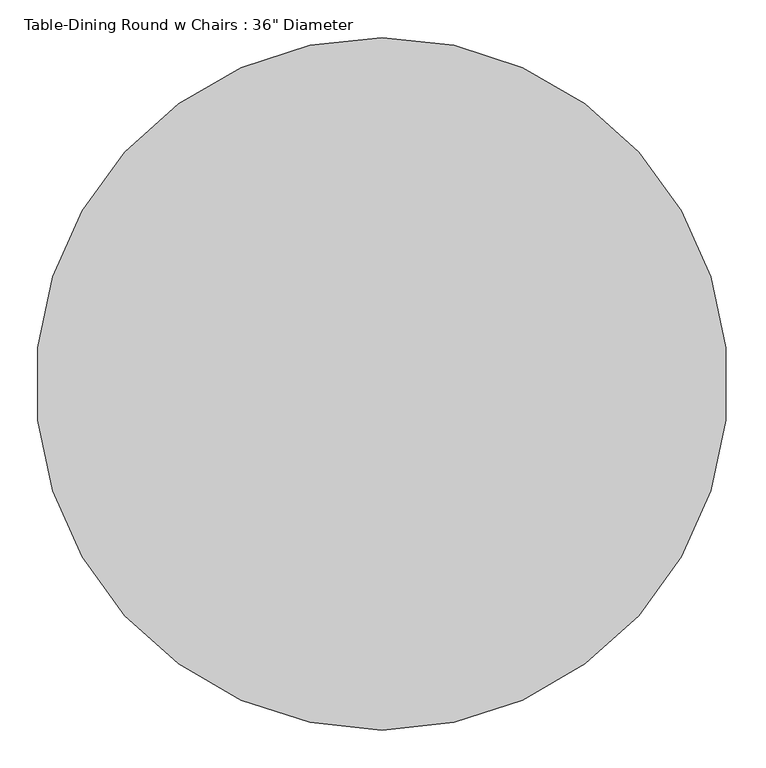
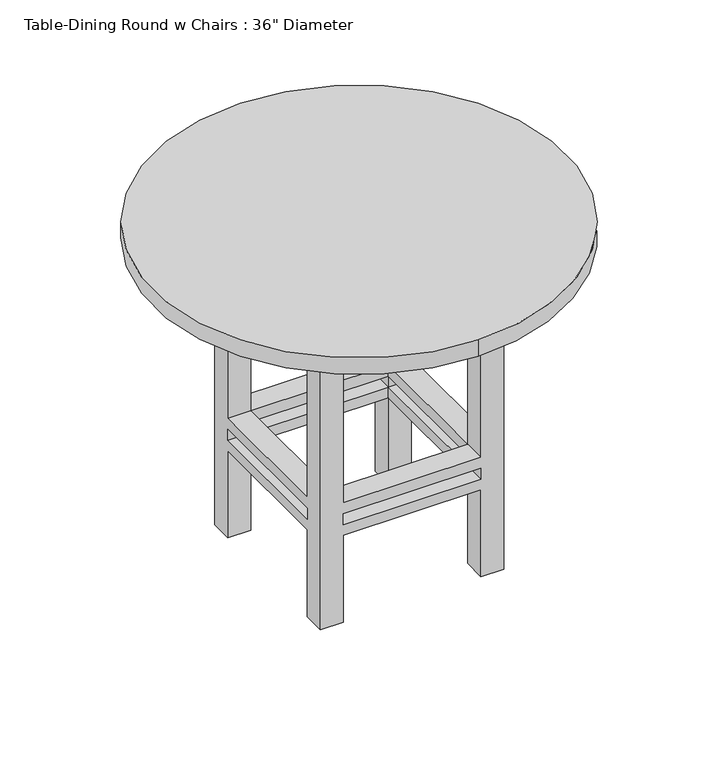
"""IFC4 building model written with IfcOpenShell, lengths in millimetres: furniture geometry."""

import ifcopenshell
import ifcopenshell.guid

model = None  # the IFC model being written
_history = None  # IfcOwnerHistory: only IFC2X3 demands one
_inside = {}  # id of a spatial element -> (the spatial element, [elements in it])
_under = {}  # id of a project, library or spatial element -> (it, [spatial elements below it])
_declared = {}  # id of a project -> (the project, [libraries it declares])
_typed = {}  # id of a type object -> (the type object, [elements of that type])
_made_of = {}  # id of a material, layer set ... -> (it, [elements and type objects made of it])


def new_model(schema):
    """Start an empty IFC model of exactly this schema.

    Asked for "IFC4X3", IfcOpenShell would pick the latest addendum, in which some entities
    have other attributes; the version numbers below select the first issue.
    IFC2X3 requires an IfcOwnerHistory on every rooted entity: one is made here for all.
    """
    global model, _history
    if schema == "IFC4X3":
        model = ifcopenshell.file(schema_version=(4, 3, 0, 0))
    else:
        model = ifcopenshell.file(schema=schema)
    _inside.clear()
    _under.clear()
    _declared.clear()
    _typed.clear()
    _made_of.clear()
    _history = None
    if model.schema == "IFC2X3":
        org = make("IfcOrganization", Name="unknown")
        user = make(
            "IfcPersonAndOrganization",
            ThePerson=make("IfcPerson", FamilyName="unknown"),
            TheOrganization=org,
        )
        app = make(
            "IfcApplication",
            ApplicationDeveloper=org,
            Version="unknown",
            ApplicationFullName="unknown",
            ApplicationIdentifier="unknown",
        )
        _history = make(
            "IfcOwnerHistory",
            OwningUser=user,
            OwningApplication=app,
            ChangeAction="ADDED",
            CreationDate=0,
        )
    return model


def make(cls, **values):
    """One entity of the class cls with the attributes given. An attribute that is None is left unset."""
    return model.create_entity(
        cls, **{name: value for name, value in values.items() if value is not None}
    )


def rooted(cls, **values):
    """An entity with a GlobalId (a new one), such as an element, a storey or a relation."""
    return make(cls, GlobalId=ifcopenshell.guid.new(), OwnerHistory=_history, **values)


def si_unit(unit_type, name, prefix=None):
    """IfcSIUnit, for example si_unit("LENGTHUNIT", "METRE", prefix="MILLI")."""
    return make("IfcSIUnit", UnitType=unit_type, Prefix=prefix, Name=name)


def assignment(units):
    """IfcUnitAssignment: the units of a project."""
    return None if units is None else make("IfcUnitAssignment", Units=units)


def point(xyz):
    """IfcCartesianPoint."""
    return None if xyz is None else make("IfcCartesianPoint", Coordinates=xyz)


def direction(xyz):
    """IfcDirection."""
    return None if xyz is None else make("IfcDirection", DirectionRatios=xyz)


def frame(location, z_axis=None, x_axis=None):
    """IfcAxis2Placement3D, a coordinate frame: its origin and axes. An axis left out is left unset."""
    return make(
        "IfcAxis2Placement3D",
        Location=point(location),
        Axis=direction(z_axis),
        RefDirection=direction(x_axis),
    )


def frame_2d(location, x_axis=None):
    """IfcAxis2Placement2D, a coordinate frame in the plane: its origin and x axis."""
    return make(
        "IfcAxis2Placement2D", Location=point(location), RefDirection=direction(x_axis)
    )


def origin():
    """The frame at (0, 0, 0) with its axes left unset."""
    return frame((0.0, 0.0, 0.0))


def place(relative_to, where):
    """IfcLocalPlacement: puts the frame where relative to a parent placement (None: the world)."""
    return make(
        "IfcLocalPlacement", PlacementRelTo=relative_to, RelativePlacement=where
    )


def context(
    kind, dimensions, precision=None, world=None, true_north=None, identifier=None
):
    """IfcGeometricRepresentationContext, for example the 3D "Model" context."""
    return make(
        "IfcGeometricRepresentationContext",
        ContextIdentifier=identifier,
        ContextType=kind,
        CoordinateSpaceDimension=dimensions,
        Precision=precision,
        WorldCoordinateSystem=world,
        TrueNorth=true_north,
    )


def project(units=None, contexts=None):
    """IfcProject with its units and contexts."""
    return rooted(
        "IfcProject",
        Name="project",
        RepresentationContexts=contexts,
        UnitsInContext=assignment(units),
    )


def spatial(cls, under=None, at=None, **own):
    """A site, building, storey or space (cls), placed at a placement, below another one or the project."""
    s = rooted(cls, ObjectPlacement=at, **own)
    if under is not None:
        _under.setdefault(under.id(), (under, []))[1].append(s)
    return s


def polyline(points):
    """IfcPolyline through the points."""
    return make("IfcPolyline", Points=[point(p) for p in points])


def circle_curve(where, radius):
    """IfcCircle in the frame where."""
    return make("IfcCircle", Position=where, Radius=radius)


def trimmed(basis, trim1, trim2, sense, master):
    """IfcTrimmedCurve: the piece of a basis curve between two trims."""
    return make(
        "IfcTrimmedCurve",
        BasisCurve=basis,
        Trim1=trim1,
        Trim2=trim2,
        SenseAgreement=sense,
        MasterRepresentation=master,
    )


def segment(curve, same_sense, transition):
    """IfcCompositeCurveSegment."""
    return make(
        "IfcCompositeCurveSegment",
        Transition=transition,
        SameSense=same_sense,
        ParentCurve=curve,
    )


def composite_curve(segments, self_intersect=None):
    """IfcCompositeCurve: segments joined end to end."""
    return make("IfcCompositeCurve", Segments=segments, SelfIntersect=self_intersect)


def outline(outer, holes=None, kind="AREA"):
    """IfcArbitraryClosedProfileDef: a profile drawn as a closed curve; with holes, ...WithVoids."""
    if holes is None:
        return make("IfcArbitraryClosedProfileDef", ProfileType=kind, OuterCurve=outer)
    return make(
        "IfcArbitraryProfileDefWithVoids",
        ProfileType=kind,
        OuterCurve=outer,
        InnerCurves=holes,
    )


def extrude(swept, where, along, depth):
    """IfcExtrudedAreaSolid: the profile swept, set in the frame where, extruded along a direction by depth."""
    return make(
        "IfcExtrudedAreaSolid",
        SweptArea=swept,
        Position=where,
        ExtrudedDirection=direction(along),
        Depth=depth,
    )


def faces_of(points, faces, orient=None, outer=None):
    """IfcFace entities. A face is a list of loops; a loop is a list of indices into points, from 0.

    orient and outer hold one flag for each loop. By default every Orientation is true, the
    first loop of a face is its IfcFaceOuterBound and the others are IfcFaceBound.
    """
    made = []
    for i, loops in enumerate(faces):
        bounds = []
        for j, loop in enumerate(loops):
            is_outer = j == 0 if outer is None else outer[i][j]
            bounds.append(
                make(
                    "IfcFaceOuterBound" if is_outer else "IfcFaceBound",
                    Bound=make("IfcPolyLoop", Polygon=[points[k] for k in loop]),
                    Orientation=True if orient is None else orient[i][j],
                )
            )
        made.append(make("IfcFace", Bounds=bounds))
    return made


def faceted_brep(points, faces, orient=None, outer=None, voids=None):
    """IfcFacetedBrep: a solid bounded by flat faces; with voids (closed shells), ...WithVoids."""
    shared = [point(p) for p in points]
    hull = make("IfcClosedShell", CfsFaces=faces_of(shared, faces, orient, outer))
    if voids is None:
        return make("IfcFacetedBrep", Outer=hull)
    return make(
        "IfcFacetedBrepWithVoids",
        Outer=hull,
        Voids=[
            make(cls, CfsFaces=faces_of(shared, fs, o, b)) for cls, fs, o, b in voids
        ],
    )


def shape(context_of_items, identifier, shape_type, items):
    """IfcShapeRepresentation: the items that make up one representation, for example the "Body"."""
    return make(
        "IfcShapeRepresentation",
        ContextOfItems=context_of_items,
        RepresentationIdentifier=identifier,
        RepresentationType=shape_type,
        Items=items,
    )


def source(mapping_origin, context_of_items, identifier, shape_type, items):
    """IfcRepresentationMap: a shape defined once, which mapped items show again and again."""
    return make(
        "IfcRepresentationMap",
        MappingOrigin=mapping_origin,
        MappedRepresentation=shape(context_of_items, identifier, shape_type, items),
    )


def transform(
    local_origin,
    x_axis=None,
    y_axis=None,
    z_axis=None,
    scale=None,
    scale2=None,
    scale3=None,
    uniform=True,
):
    """IfcCartesianTransformationOperator3D, or its non-uniform kind. x_axis, y_axis, z_axis: its Axis1, 2, 3."""
    if uniform:
        return make(
            "IfcCartesianTransformationOperator3D",
            Axis1=direction(x_axis),
            Axis2=direction(y_axis),
            LocalOrigin=point(local_origin),
            Scale=scale,
            Axis3=direction(z_axis),
        )
    return make(
        "IfcCartesianTransformationOperator3DnonUniform",
        Axis1=direction(x_axis),
        Axis2=direction(y_axis),
        LocalOrigin=point(local_origin),
        Scale=scale,
        Axis3=direction(z_axis),
        Scale2=scale2,
        Scale3=scale3,
    )


def mapped(mapping_source, mapping_target):
    """IfcMappedItem: shows the shape of a source again, moved by a transform."""
    return make(
        "IfcMappedItem", MappingSource=mapping_source, MappingTarget=mapping_target
    )


def made_of(thing, what):
    """Note that an element or type object is made of a material, layer set ...; save() writes the relation."""
    if what is not None:
        _made_of.setdefault(what.id(), (what, []))[1].append(thing)
    return thing


def element(
    cls,
    number,
    at=None,
    inside=None,
    cuts=None,
    type_object=None,
    material=None,
    context=None,
    identifier="Body",
    shape_type=None,
    held_by="IfcProductDefinitionShape",
    body=None,
    shapes=None,
    **own,
):
    """One element of the class cls, such as IfcWall. Its Tag is "e" and its number.

    at: its placement. inside: the storey or other place that contains it. cuts: it is an
    opening in that element (IfcRelVoidsElement). A single representation is given by context,
    identifier, shape_type and body (its items); several are given by shapes. held_by: the class
    of the entity that holds the representations. save() writes the other relations.
    """
    e = rooted(cls, Tag="e%d" % number, ObjectPlacement=at, **own)
    if body is not None:
        shapes = [shape(context, identifier, shape_type, body)]
    if shapes is not None:
        e.Representation = make(held_by, Representations=shapes)
    if inside is not None:
        _inside.setdefault(inside.id(), (inside, []))[1].append(e)
    if cuts is not None:
        rooted(
            "IfcRelVoidsElement", RelatingBuildingElement=cuts, RelatedOpeningElement=e
        )
    if type_object is not None:
        _typed.setdefault(type_object.id(), (type_object, []))[1].append(e)
    return made_of(e, material)


def aggregate(whole, parts):
    """IfcRelAggregates: a whole, such as a stair, and the parts it consists of."""
    return rooted("IfcRelAggregates", RelatingObject=whole, RelatedObjects=parts)


def save(model, path):
    """Write the relations noted so far, then the file.

    IfcRelAggregates (storeys below a building ...), IfcRelContainedInSpatialStructure (elements
    in a storey), IfcRelDefinesByType, IfcRelAssociatesMaterial and IfcRelDeclares: one each for
    every whole, place, type object, material and project.
    """
    for whole, parts in _under.values():
        aggregate(whole, parts)
    for where, things in _inside.values():
        rooted(
            "IfcRelContainedInSpatialStructure",
            RelatedElements=things,
            RelatingStructure=where,
        )
    for kind, things in _typed.values():
        rooted("IfcRelDefinesByType", RelatedObjects=things, RelatingType=kind)
    for what, things in _made_of.values():
        rooted("IfcRelAssociatesMaterial", RelatedObjects=things, RelatingMaterial=what)
    for by, libraries in _declared.values():
        rooted("IfcRelDeclares", RelatingContext=by, RelatedDefinitions=libraries)
    model.write(path)


def furniture_905aceb5(model_context):
    return source(origin(), model_context, "Body", "SolidModel", [
        faceted_brep([(256.0819672, -32.4786885, 279.4), (256.0819672, -337.2786885, 279.4), (306.8819672, -337.2786885, 279.4), (306.8819672, -32.4786885, 279.4), (-48.7180328, -337.2786885, 279.4), (-48.7180328, -388.0786885, 279.4), (256.0819672, -388.0786885, 279.4), (-48.7180328, -32.4786885, 279.4), (-99.5180328, -32.4786885, 279.4), (-99.5180328, -337.2786885, 279.4), (256.0819672, 18.3213115, 279.4), (-48.7180328, 18.3213115, 279.4), (256.0819672, -32.4786885, 254.0), (-48.7180328, -32.4786885, 254.0), (-48.7180328, 18.3213115, 254.0), (256.0819672, 18.3213115, 254.0), (-48.7180328, -337.2786885, 254.0), (-99.5180328, -337.2786885, 254.0), (-99.5180328, -32.4786885, 254.0), (256.0819672, -337.2786885, 254.0), (256.0819672, -388.0786885, 254.0), (-48.7180328, -388.0786885, 254.0), (306.8819672, -32.4786885, 254.0), (306.8819672, -337.2786885, 254.0), (-99.5180328, 18.3213115, 647.7), (-48.7180328, 18.3213115, 647.7), (256.0819672, 18.3213115, 647.7), (306.8819672, 18.3213115, 647.7), (306.8819672, 18.3213115, 0.0), (256.0819672, 18.3213115, 0.0), (256.0819672, 18.3213115, 203.2), (-48.7180328, 18.3213115, 203.2), (-48.7180328, 18.3213115, 0.0), (-99.5180328, 18.3213115, 0.0), (-48.7180328, 18.3213115, 228.6), (256.0819672, 18.3213115, 228.6), (-99.5180328, -32.4786885, 647.7), (-99.5180328, -32.4786885, 0.0), (-99.5180328, -32.4786885, 203.2), (-99.5180328, -337.2786885, 203.2), (-99.5180328, -337.2786885, 0.0), (-99.5180328, -388.0786885, 0.0), (-99.5180328, -388.0786885, 647.7), (-99.5180328, -337.2786885, 647.7), (-99.5180328, -337.2786885, 228.6), (-99.5180328, -32.4786885, 228.6), (306.8819672, -388.0786885, 647.7), (256.0819672, -388.0786885, 647.7), (-48.7180328, -388.0786885, 647.7), (-48.7180328, -388.0786885, 0.0), (-48.7180328, -388.0786885, 203.2), (256.0819672, -388.0786885, 203.2), (256.0819672, -388.0786885, 0.0), (306.8819672, -388.0786885, 0.0), (256.0819672, -388.0786885, 228.6), (-48.7180328, -388.0786885, 228.6), (306.8819672, -32.4786885, 647.7), (306.8819672, -337.2786885, 647.7), (306.8819672, -337.2786885, 0.0), (306.8819672, -337.2786885, 203.2), (306.8819672, -32.4786885, 203.2), (306.8819672, -32.4786885, 0.0), (306.8819672, -32.4786885, 228.6), (306.8819672, -337.2786885, 228.6), (-48.7180328, -32.4786885, 647.7), (256.0819672, -337.2786885, 647.7), (256.0819672, -32.4786885, 647.7), (-48.7180328, -337.2786885, 647.7), (256.0819672, -32.4786885, 0.0), (-48.7180328, -337.2786885, 0.0), (-48.7180328, -32.4786885, 0.0), (256.0819672, -337.2786885, 0.0), (-48.7180328, -32.4786885, 228.6), (-48.7180328, -32.4786885, 203.2), (256.0819672, -32.4786885, 228.6), (256.0819672, -32.4786885, 203.2), (256.0819672, -337.2786885, 228.6), (256.0819672, -337.2786885, 203.2), (-48.7180328, -337.2786885, 228.6), (-48.7180328, -337.2786885, 203.2)], [[[0, 1, 2, 3]], [[1, 4, 5, 6]], [[4, 7, 8, 9]], [[7, 0, 10, 11]], [[12, 13, 14, 15]], [[13, 16, 17, 18]], [[16, 19, 20, 21]], [[19, 12, 22, 23]], [[24, 25, 11, 10, 26, 27, 28, 29, 30, 31, 32, 33], [14, 34, 35, 15]], [[36, 24, 33, 37, 38, 39, 40, 41, 42, 43, 9, 8], [17, 44, 45, 18]], [[46, 47, 6, 5, 48, 42, 41, 49, 50, 51, 52, 53], [20, 54, 55, 21]], [[28, 27, 56, 3, 2, 57, 46, 53, 58, 59, 60, 61], [22, 62, 63, 23]], [[1, 0, 12, 19]], [[4, 1, 19, 16]], [[7, 4, 16, 13]], [[0, 7, 13, 12]], [[25, 24, 36, 64]], [[47, 46, 57, 65]], [[26, 66, 56, 27]], [[48, 67, 43, 42]], [[29, 28, 61, 68]], [[49, 41, 40, 69]], [[32, 70, 37, 33]], [[52, 71, 58, 53]], [[13, 18, 45, 72]], [[64, 36, 8, 7]], [[37, 70, 73, 38]], [[14, 13, 72, 34]], [[25, 64, 7, 11]], [[70, 32, 31, 73]], [[12, 15, 35, 74]], [[66, 26, 10, 0]], [[29, 68, 75, 30]], [[22, 12, 74, 62]], [[56, 66, 0, 3]], [[68, 61, 60, 75]], [[19, 23, 63, 76]], [[65, 57, 2, 1]], [[58, 71, 77, 59]], [[20, 19, 76, 54]], [[47, 65, 1, 6]], [[71, 52, 51, 77]], [[16, 21, 55, 78]], [[67, 48, 5, 4]], [[49, 69, 79, 50]], [[17, 16, 78, 44]], [[43, 67, 4, 9]], [[69, 40, 39, 79]], [[74, 76, 63, 62]], [[76, 78, 55, 54]], [[78, 72, 45, 44]], [[72, 74, 35, 34]], [[75, 73, 31, 30]], [[73, 79, 39, 38]], [[79, 77, 51, 50]], [[77, 75, 60, 59]], [[76, 74, 75, 77]], [[78, 76, 77, 79]], [[72, 78, 79, 73]], [[74, 72, 73, 75]]]),
        extrude(outline(polyline([(332.2819672, 43.7213115), (332.2819672, -413.4786885), (-124.9180328, -413.4786885), (-124.9180328, 43.7213115), (332.2819672, 43.7213115)]), holes=[polyline([(306.8819672, 18.3213115), (-99.5180328, 18.3213115), (-99.5180328, -388.0786885), (306.8819672, -388.0786885), (306.8819672, 18.3213115)])]), frame((0.0, 0.0, 647.7), z_axis=(0.0, 0.0, 1.0), x_axis=(1.0, 0.0, 0.0)), (0.0, 0.0, 1.0), 76.2),
        extrude(outline(composite_curve([segment(trimmed(circle_curve(frame_2d((103.6819672, -184.8786885)), 457.2), [point((103.6819672, -642.0786885))], [point((103.6819672, 272.3213115))], False, "CARTESIAN"), True, "CONTINUOUS"), segment(trimmed(circle_curve(frame_2d((103.6819672, -184.8786885)), 457.2), [point((103.6819672, 272.3213115))], [point((103.6819672, -642.0786885))], False, "CARTESIAN"), True, "CONTINUOUS")], self_intersect=False)), frame((0.0, 0.0, 723.9), z_axis=(0.0, 0.0, 1.0), x_axis=(1.0, 0.0, 0.0)), (0.0, 0.0, 1.0), 38.1),
    ])


if __name__ == "__main__":
    model = new_model("IFC4")
    model_context = context("Model", 3, world=origin())
    ifc_project = project(units=[si_unit("LENGTHUNIT", "METRE", prefix="MILLI")], contexts=[model_context])
    site = spatial("IfcSite", under=ifc_project)
    building = spatial("IfcBuilding", under=site)
    placement = place(None, origin())
    furniture_shape = furniture_905aceb5(model_context)
    element("IfcFurniture", 1, ObjectType="Table-Dining Round w Chairs : 36\" Diameter", at=placement, inside=building, context=model_context, shape_type="MappedRepresentation", body=[
        mapped(furniture_shape, transform((0.0, 0.0, 0.0), x_axis=(1.0, 0.0, 0.0), y_axis=(0.0, 1.0, 0.0), z_axis=(0.0, 0.0, 1.0))),
    ])
    save(model, "model.ifc")
